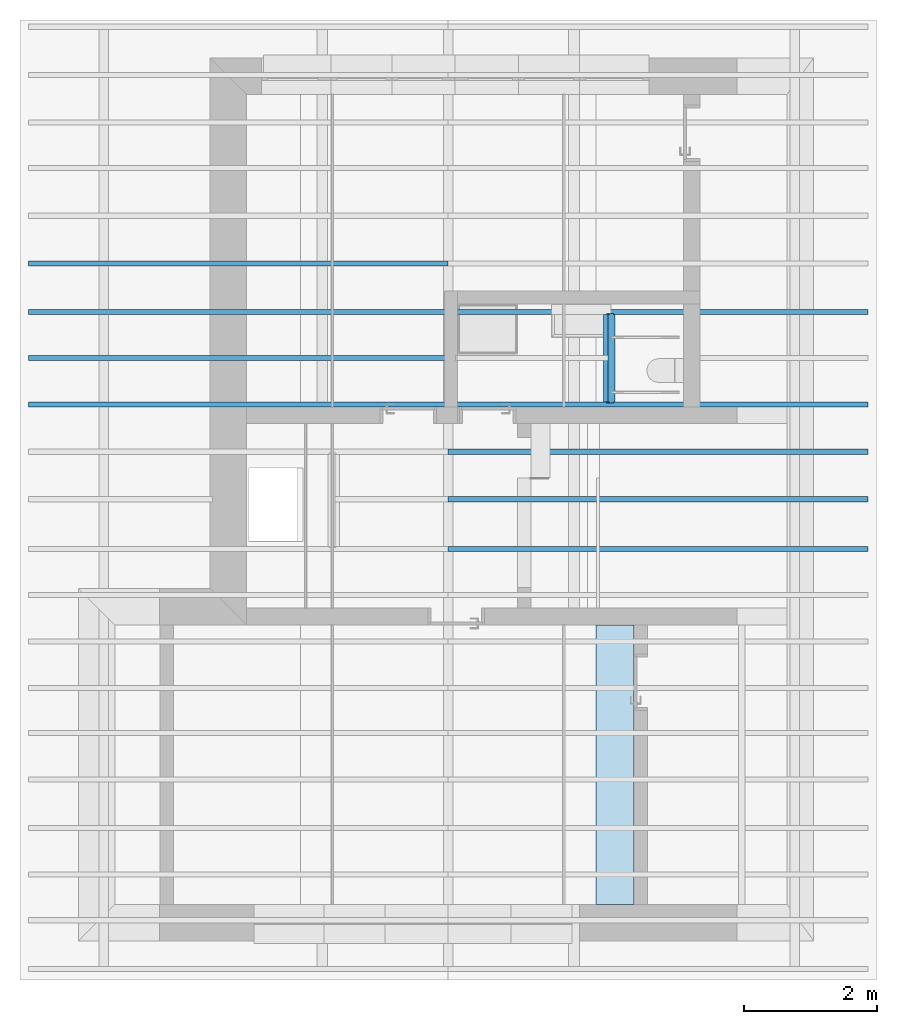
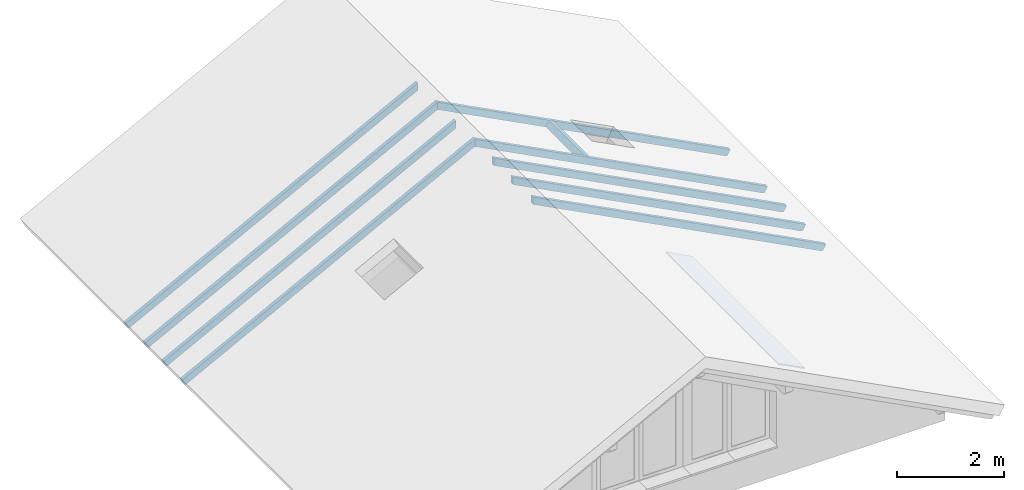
# One storey, part 11 of 18: 10 beams, 1 slab.
"""IFC2X3 building model written with IfcOpenShell, lengths in metres."""

from ifc_helpers import new_model, entity, si_unit, converted_unit, derived_unit, direction, frame, origin, place, context, subcontext, project, spatial, faceted_brep, material, layer, layer_set, type_object, element, save


model = new_model("IFC2X3")

# Units and contexts
model_context = context("Model", 3, precision=1e-05, world=origin(), true_north=direction((6.123233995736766e-17, 1.0)))
body_context = subcontext(model_context, "Body", "Model", "MODEL_VIEW")
ifc_project = project(units=[si_unit("LENGTHUNIT", "METRE"), si_unit("AREAUNIT", "SQUARE_METRE"), si_unit("VOLUMEUNIT", "CUBIC_METRE"), si_unit("POWERUNIT", "WATT"), derived_unit("USERDEFINED", [(si_unit("MASSUNIT", "GRAM", prefix="KILO"), 1), (si_unit("TIMEUNIT", "SECOND"), -3)]), derived_unit("THERMALRESISTANCEUNIT", [(si_unit("MASSUNIT", "GRAM", prefix="KILO"), -1), (si_unit("TIMEUNIT", "SECOND"), 3), (si_unit("THERMODYNAMICTEMPERATUREUNIT", "KELVIN"), 1)]), derived_unit("USERDEFINED", [(si_unit("MASSUNIT", "GRAM", prefix="KILO"), 1), (si_unit("TIMEUNIT", "SECOND"), -2), (si_unit("THERMODYNAMICTEMPERATUREUNIT", "KELVIN"), -1)]), derived_unit("THERMALTRANSMITTANCEUNIT", [(si_unit("MASSUNIT", "GRAM", prefix="KILO"), 1), (si_unit("TIMEUNIT", "SECOND"), -3), (si_unit("THERMODYNAMICTEMPERATUREUNIT", "KELVIN"), -1)]), converted_unit("PLANEANGLEUNIT", "DEGREE", entity("IfcPlaneAngleMeasure", 0.017453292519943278), si_unit("PLANEANGLEUNIT", "RADIAN"), dimensions=[0, 0, 0, 0, 0, 0, 0]), derived_unit("MOMENTOFINERTIAUNIT", [(si_unit("LENGTHUNIT", "METRE"), 4)])], contexts=[model_context])

# Site, building, storey
site_placement = place(None, origin())
site = spatial("IfcSite", under=ifc_project, at=site_placement, Name="Default", CompositionType="ELEMENT")
building_placement = place(site_placement, origin())
building = spatial("IfcBuilding", under=site, at=building_placement, CompositionType="ELEMENT")
storey_placement = place(building_placement, frame((0.0, 0.0, 5.4)))
storey = spatial("IfcBuildingStorey", under=building, at=storey_placement, Name="1. Obergeschoss", CompositionType="ELEMENT", Elevation=5.4)

# Beams
ifc_material_1 = material(Name="Holz - Astfichte")
beam_type_1 = type_object("IfcBeamType", Name="Skelettbau Holz - Sparren mit Zierkopf:80 x 150", PredefinedType="BEAM")
beam_1_placement = place(storey_placement, frame((26.80257715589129, 23.332272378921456, 0.05454015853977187), z_axis=(-0.4617486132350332, 0.0, 0.887010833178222), x_axis=(0.887010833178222, 0.0, 0.4617486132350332)))
element("IfcBeam", 1, at=beam_1_placement, inside=storey, type_object=beam_type_1, material=ifc_material_1, Name="Skelettbau Holz - Sparren mit Zierkopf:80 x 150", ObjectType="Skelettbau Holz - Sparren mit Zierkopf:80 x 150", context=body_context, shape_type="Brep", body=[
    faceted_brep([(7.180713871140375, 0.0, 0.1070253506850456), (7.180713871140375, 0.08000000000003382, 0.1070253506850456), (0.055713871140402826, 0.08000000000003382, 0.10702535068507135), (0.055713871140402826, 0.0, 0.10702535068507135), (0.09571387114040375, 0.0, -0.042974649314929), (0.09571387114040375, 0.08000000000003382, -0.042974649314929), (0.20571387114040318, 0.08000000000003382, -0.042974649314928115), (7.102628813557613, 0.08000000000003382, -0.04297464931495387), (7.102628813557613, 0.0, -0.04297464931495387), (0.20571387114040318, 0.0, -0.042974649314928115), (0.055713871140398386, 0.08000000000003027, -0.0029746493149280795), (0.08536110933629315, 0.08000000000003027, -0.041611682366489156), (0.07571387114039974, 0.08000000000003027, -0.03761566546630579), (0.06742959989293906, 0.08000000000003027, -0.031258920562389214), (0.0610728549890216, 0.08000000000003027, -0.022974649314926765), (0.05707683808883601, 0.08000000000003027, -0.013327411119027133), (0.05571387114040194, 0.0, -0.002974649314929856), (0.05707683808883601, 0.0, -0.013327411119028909), (0.0610728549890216, 0.0, -0.022974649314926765), (0.06742959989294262, 0.0, -0.03125892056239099), (0.07571387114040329, 0.0, -0.03761566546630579), (0.08536110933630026, 0.0, -0.04161168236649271)], [[[0, 1, 2, 3]], [[4, 5, 6, 7, 8, 9]], [[10, 2, 1, 7, 6, 5, 11, 12, 13, 14, 15]], [[4, 9, 8, 0, 3, 16, 17, 18, 19, 20, 21]], [[16, 10, 15, 17]], [[17, 15, 14, 18]], [[18, 14, 13, 19]], [[20, 12, 11, 21]], [[21, 11, 5, 4]], [[20, 19, 13, 12]], [[3, 2, 10, 16]], [[0, 8, 7, 1]]]),
])
beam_2_placement = place(storey_placement, frame((26.802577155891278, 24.030347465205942, 0.05454015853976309), z_axis=(-0.4617486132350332, 0.0, 0.887010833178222), x_axis=(0.887010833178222, 0.0, 0.4617486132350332)))
element("IfcBeam", 2, at=beam_2_placement, inside=storey, type_object=beam_type_1, material=ifc_material_1, Name="Skelettbau Holz - Sparren mit Zierkopf:80 x 150", ObjectType="Skelettbau Holz - Sparren mit Zierkopf:80 x 150", context=body_context, shape_type="Brep", body=[
    faceted_brep([(7.180713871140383, 0.0, 0.10702535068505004), (7.180713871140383, 0.08000000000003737, 0.10702535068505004), (0.05571387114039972, 0.08000000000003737, 0.10702535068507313), (0.05571387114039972, 0.0, 0.10702535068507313), (0.09571387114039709, 0.0, -0.042974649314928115), (0.09571387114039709, 0.08000000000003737, -0.042974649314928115), (0.20571387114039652, 0.08000000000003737, -0.04297464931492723), (7.102628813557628, 0.08000000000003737, -0.04297464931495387), (7.102628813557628, 0.0, -0.04297464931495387), (0.20571387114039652, 0.0, -0.04297464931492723), (0.05571387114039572, 0.08000000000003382, -0.002974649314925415), (0.08536110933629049, 0.08000000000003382, -0.04161168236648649), (0.07571387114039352, 0.08000000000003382, -0.037615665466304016), (0.0674295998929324, 0.08000000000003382, -0.031258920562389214), (0.061072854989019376, 0.08000000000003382, -0.022974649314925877), (0.05707683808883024, 0.08000000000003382, -0.013327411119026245), (0.05571387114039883, 0.0, -0.0029746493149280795), (0.05707683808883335, 0.0, -0.013327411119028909), (0.06107285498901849, 0.0, -0.022974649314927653), (0.06742959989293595, 0.0, -0.03125892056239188), (0.07571387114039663, 0.0, -0.03761566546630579), (0.08536110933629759, 0.0, -0.041611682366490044)], [[[0, 1, 2, 3]], [[4, 5, 6, 7, 8, 9]], [[10, 2, 1, 7, 6, 5, 11, 12, 13, 14, 15]], [[4, 9, 8, 0, 3, 16, 17, 18, 19, 20, 21]], [[16, 10, 15, 17]], [[17, 15, 14, 18]], [[18, 14, 13, 19]], [[20, 12, 11, 21]], [[21, 11, 5, 4]], [[20, 19, 13, 12]], [[3, 2, 10, 16]], [[0, 8, 7, 1]]]),
])
beam_3_placement = place(storey_placement, frame((26.80257715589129, 24.724921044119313, 0.0545401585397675), z_axis=(-0.4617486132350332, 0.0, 0.887010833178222), x_axis=(0.887010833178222, 0.0, 0.4617486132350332)))
element("IfcBeam", 3, at=beam_3_placement, inside=storey, type_object=beam_type_1, material=ifc_material_1, Name="Skelettbau Holz - Sparren mit Zierkopf:80 x 150", ObjectType="Skelettbau Holz - Sparren mit Zierkopf:80 x 150", context=body_context, shape_type="Brep", body=[
    faceted_brep([(7.180713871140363, 0.0, 0.10702535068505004), (7.180713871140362, 0.08000000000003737, 0.10702535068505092), (0.055713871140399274, 0.08000000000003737, 0.10702535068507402), (0.05571387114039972, 0.0, 0.10702535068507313), (0.09571387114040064, 0.0, -0.04297464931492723), (0.0957138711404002, 0.08000000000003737, -0.04297464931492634), (0.20571387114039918, 0.08000000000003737, -0.04297464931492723), (7.102628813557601, 0.08000000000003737, -0.04297464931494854), (7.102628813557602, 0.0, -0.04297464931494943), (0.20571387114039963, 0.0, -0.042974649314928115), (0.05571387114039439, 0.08000000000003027, -0.0029746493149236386), (0.08536110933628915, 0.08000000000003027, -0.0416116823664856), (0.07571387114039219, 0.08000000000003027, -0.03761566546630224), (0.06742959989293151, 0.08000000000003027, -0.03125892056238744), (0.061072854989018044, 0.08000000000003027, -0.02297464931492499), (0.05707683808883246, 0.08000000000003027, -0.013327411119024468), (0.05571387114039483, 0.0, -0.002974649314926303), (0.05707683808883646, 0.0, -0.013327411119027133), (0.06107285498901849, 0.0, -0.022974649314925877), (0.06742959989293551, 0.0, -0.031258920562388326), (0.07571387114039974, 0.0, -0.03761566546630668), (0.0853611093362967, 0.0, -0.04161168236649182)], [[[0, 1, 2, 3]], [[4, 5, 6, 7, 8, 9]], [[10, 2, 1, 7, 6, 5, 11, 12, 13, 14, 15]], [[4, 9, 8, 0, 3, 16, 17, 18, 19, 20, 21]], [[16, 10, 15, 17]], [[17, 15, 14, 18]], [[18, 14, 13, 19]], [[20, 12, 11, 21]], [[21, 11, 5, 4]], [[20, 19, 13, 12]], [[3, 2, 10, 16]], [[0, 8, 7, 1]]]),
])
beam_4_placement = place(storey_placement, frame((26.80257715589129, 25.454921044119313, 0.054540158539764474), z_axis=(-0.4617486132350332, 0.0, 0.887010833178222), x_axis=(0.887010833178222, 0.0, 0.4617486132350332)))
element("IfcBeam", 4, at=beam_4_placement, inside=storey, type_object=beam_type_1, material=ifc_material_1, Name="Skelettbau Holz - Sparren mit Zierkopf:80 x 150", ObjectType="Skelettbau Holz - Sparren mit Zierkopf:80 x 150", context=body_context, shape_type="Brep", body=[
    faceted_brep([(7.180713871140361, 0.0, 0.1070253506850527), (7.180713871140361, 0.08000000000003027, 0.1070253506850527), (0.055713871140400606, 0.08000000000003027, 0.10702535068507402), (0.05571387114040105, 0.0, 0.10702535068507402), (0.09571387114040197, 0.0, -0.04297464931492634), (0.09571387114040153, 0.08000000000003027, -0.04297464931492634), (0.20571387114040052, 0.08000000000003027, -0.04297464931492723), (7.102628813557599, 0.08000000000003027, -0.04297464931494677), (7.102628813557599, 0.0, -0.04297464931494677), (0.20571387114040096, 0.0, -0.04297464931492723), (0.05571387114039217, 0.08000000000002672, -0.0029746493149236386), (0.08536110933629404, 0.08000000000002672, -0.041611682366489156), (0.07571387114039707, 0.08000000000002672, -0.037615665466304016), (0.06742959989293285, 0.08000000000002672, -0.03125892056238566), (0.061072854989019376, 0.08000000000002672, -0.02297464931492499), (0.05707683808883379, 0.08000000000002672, -0.013327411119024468), (0.05571387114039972, 0.0, -0.0029746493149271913), (0.05707683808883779, 0.0, -0.013327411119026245), (0.06107285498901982, 0.0, -0.02297464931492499), (0.0674295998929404, 0.0, -0.031258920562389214), (0.07571387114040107, 0.0, -0.03761566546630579), (0.08536110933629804, 0.0, -0.04161168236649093)], [[[0, 1, 2, 3]], [[4, 5, 6, 7, 8, 9]], [[10, 2, 1, 7, 6, 5, 11, 12, 13, 14, 15]], [[4, 9, 8, 0, 3, 16, 17, 18, 19, 20, 21]], [[16, 10, 15, 17]], [[17, 15, 14, 18]], [[18, 14, 13, 19]], [[20, 12, 11, 21]], [[21, 11, 5, 4]], [[20, 19, 13, 12]], [[3, 2, 10, 16]], [[0, 8, 7, 1]]]),
])
beam_5_placement = place(storey_placement, frame((33.1225293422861, 24.724921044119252, 3.465157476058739), z_axis=(0.46174861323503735, 0.0, 0.8870108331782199), x_axis=(-0.8870108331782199, 0.0, 0.46174861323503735)))
element("IfcBeam", 5, at=beam_5_placement, inside=storey, type_object=beam_type_1, material=ifc_material_1, Name="Skelettbau Holz - Sparren mit Zierkopf:80 x 150", ObjectType="Skelettbau Holz - Sparren mit Zierkopf:80 x 150", context=body_context, shape_type="Brep", body=[
    faceted_brep([(0.0, 0.0, 0.0), (-2.7120042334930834, 0.0, 0.0), (-2.738927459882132, 0.0, 0.0), (-2.735346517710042, -0.020000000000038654, 0.0), (-2.808661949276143, -0.0200000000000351, 0.0), (-2.805081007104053, 0.0, 0.0), (-2.832004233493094, 0.0, 0.0), (-7.124999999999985, 0.0, 0.0), (-7.124999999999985, -0.08000000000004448, 0.0), (0.0, -0.08000000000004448, 0.0), (-7.084999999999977, 0.0, -0.14999999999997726), (-6.974999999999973, 0.0, -0.14999999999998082), (-2.8320042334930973, 0.0, -0.1499999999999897), (-2.712004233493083, 0.0, -0.14999999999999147), (-0.0780850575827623, 0.0, -0.14999999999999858), (-0.07808505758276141, -0.08000000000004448, -0.14999999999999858), (-6.974999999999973, -0.08000000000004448, -0.14999999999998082), (-7.084999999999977, -0.08000000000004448, -0.14999999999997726), (-7.095352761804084, 0.0, -0.1486370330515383), (-7.104999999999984, 0.0, -0.14464101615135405), (-7.113284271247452, 0.0, -0.13828427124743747), (-7.119641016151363, 0.0, -0.1299999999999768), (-7.123637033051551, 0.0, -0.12035276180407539), (-7.124999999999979, 0.0, -0.10999999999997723), (-2.781852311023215, 0.0, -0.13173648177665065), (-2.781100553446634, 0.0, -0.1341541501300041), (-2.77976569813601, 0.0, -0.13630552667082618), (-2.7779333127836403, 0.0, -0.1380527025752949), (-2.7757208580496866, 0.0, -0.1392836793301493), (-2.773270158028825, 0.0, -0.13991954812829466), (-2.7707383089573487, 0.0, -0.1399195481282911), (-2.7682876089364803, 0.0, -0.13928367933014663), (-2.766075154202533, 0.0, -0.13805270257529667), (-2.7642427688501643, 0.0, -0.13630552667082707), (-2.7629079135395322, 0.0, -0.13415415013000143), (-2.7621561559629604, 0.0, -0.13173648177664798), (-7.124999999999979, -0.08000000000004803, -0.10999999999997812), (-7.123637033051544, -0.08000000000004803, -0.12035276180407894), (-7.119641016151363, -0.08000000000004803, -0.1299999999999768), (-7.113284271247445, -0.08000000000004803, -0.13828427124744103), (-7.104999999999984, -0.08000000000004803, -0.14464101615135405), (-7.095352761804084, -0.08000000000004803, -0.1486370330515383), (-2.785325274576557, -0.0200000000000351, -0.13234885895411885), (-2.7586831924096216, -0.0200000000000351, -0.1323488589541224), (-2.759700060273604, -0.0200000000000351, -0.1356191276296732), (-2.761505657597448, -0.0200000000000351, -0.13852919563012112), (-2.763984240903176, -0.0200000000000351, -0.14089252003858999), (-2.7669769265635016, -0.0200000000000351, -0.14255760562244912), (-2.7702918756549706, -0.0200000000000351, -0.14341771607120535), (-2.7737165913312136, -0.0200000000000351, -0.14341771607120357), (-2.7770315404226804, -0.0200000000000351, -0.1425576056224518), (-2.780024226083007, -0.0200000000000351, -0.1408925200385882), (-2.7825028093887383, -0.0200000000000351, -0.13852919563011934), (-2.7843084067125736, -0.0200000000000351, -0.1356191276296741)], [[[0, 1, 2, 3, 4, 5, 6, 7, 8, 9]], [[10, 11, 12, 13, 14, 15, 16, 17]], [[1, 0, 14, 13, 12, 11, 10, 18, 19, 20, 21, 22, 23, 7, 6, 5, 24, 25, 26, 27, 28, 29, 30, 31, 32, 33, 34, 35, 2]], [[17, 16, 15, 9, 8, 36, 37, 38, 39, 40, 41]], [[36, 23, 22, 37]], [[37, 22, 21, 38]], [[38, 21, 20, 39]], [[40, 19, 18, 41]], [[41, 18, 10, 17]], [[40, 39, 20, 19]], [[8, 7, 23, 36]], [[9, 15, 14, 0]], [[42, 4, 3, 43, 44, 45, 46, 47, 48, 49, 50, 51, 52, 53]], [[25, 24, 42, 53]], [[26, 25, 53, 52]], [[50, 49, 29, 28]], [[51, 50, 28, 27]], [[52, 51, 27, 26]], [[49, 48, 30, 29]], [[47, 46, 32, 31]], [[48, 47, 31, 30]], [[44, 43, 35, 34]], [[45, 44, 34, 33]], [[46, 45, 33, 32]], [[42, 24, 5, 4]], [[3, 2, 35, 43]]]),
])
beam_6_placement = place(storey_placement, frame((33.1225293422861, 23.332272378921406, 3.4651574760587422), z_axis=(0.46174861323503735, 0.0, 0.8870108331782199), x_axis=(-0.8870108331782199, 0.0, 0.46174861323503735)))
element("IfcBeam", 6, at=beam_6_placement, inside=storey, type_object=beam_type_1, material=ifc_material_1, Name="Skelettbau Holz - Sparren mit Zierkopf:80 x 150", ObjectType="Skelettbau Holz - Sparren mit Zierkopf:80 x 150", context=body_context, shape_type="Brep", body=[
    faceted_brep([(0.0, 0.0, 0.0), (-7.124999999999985, 0.0, 0.0), (-7.124999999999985, -0.08000000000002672, 0.0), (-2.8320042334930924, -0.08000000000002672, 0.0), (-2.805081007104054, -0.08000000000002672, 0.0), (-2.808661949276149, -0.06000000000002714, 0.0), (-2.735346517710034, -0.060000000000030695, 0.0), (-2.738927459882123, -0.08000000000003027, 0.0), (-2.7120042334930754, -0.08000000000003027, 0.0), (0.0, -0.08000000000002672, 0.0), (-7.084999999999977, 0.0, -0.14999999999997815), (-6.974999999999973, 0.0, -0.1499999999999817), (-0.0780850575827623, 0.0, -0.14999999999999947), (-0.0780850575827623, -0.08000000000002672, -0.15000000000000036), (-2.712004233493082, -0.08000000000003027, -0.14999999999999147), (-2.832004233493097, -0.08000000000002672, -0.1499999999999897), (-6.974999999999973, -0.08000000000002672, -0.1499999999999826), (-7.084999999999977, -0.08000000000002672, -0.14999999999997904), (-7.124999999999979, 0.0, -0.10999999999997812), (-7.095352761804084, 0.0, -0.1486370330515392), (-7.104999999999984, 0.0, -0.14464101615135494), (-7.113284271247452, 0.0, -0.13828427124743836), (-7.119641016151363, 0.0, -0.1299999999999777), (-7.123637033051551, 0.0, -0.12035276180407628), (-2.7621561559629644, -0.08000000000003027, -0.13173648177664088), (-2.762907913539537, -0.08000000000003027, -0.1341541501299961), (-2.764242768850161, -0.08000000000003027, -0.13630552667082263), (-2.7660751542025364, -0.08000000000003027, -0.1380527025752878), (-2.76828760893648, -0.08000000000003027, -0.13928367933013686), (-2.7707383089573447, -0.08000000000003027, -0.13991954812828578), (-2.7732701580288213, -0.08000000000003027, -0.13991954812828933), (-2.7757208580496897, -0.08000000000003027, -0.13928367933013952), (-2.777933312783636, -0.08000000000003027, -0.13805270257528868), (-2.779765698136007, -0.08000000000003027, -0.13630552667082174), (-2.7811005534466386, -0.08000000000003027, -0.1341541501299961), (-2.7818523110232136, -0.08000000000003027, -0.13173648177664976), (-7.124999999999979, -0.08000000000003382, -0.10999999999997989), (-7.123637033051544, -0.08000000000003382, -0.12035276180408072), (-7.119641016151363, -0.08000000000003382, -0.12999999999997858), (-7.113284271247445, -0.08000000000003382, -0.1382842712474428), (-7.104999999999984, -0.08000000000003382, -0.14464101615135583), (-7.095352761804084, -0.08000000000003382, -0.14863703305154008), (-2.7586831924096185, -0.06000000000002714, -0.13234885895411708), (-2.785325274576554, -0.06000000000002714, -0.1323488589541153), (-2.784308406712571, -0.06000000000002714, -0.13561912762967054), (-2.782502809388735, -0.06000000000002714, -0.1385291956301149), (-2.7800242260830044, -0.06000000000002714, -0.14089252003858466), (-2.777031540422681, -0.06000000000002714, -0.14255760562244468), (-2.7737165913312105, -0.06000000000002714, -0.14341771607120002), (-2.770291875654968, -0.06000000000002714, -0.1434177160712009), (-2.7669769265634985, -0.06000000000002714, -0.14255760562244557), (-2.7639842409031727, -0.06000000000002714, -0.14089252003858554), (-2.7615056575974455, -0.06000000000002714, -0.13852919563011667), (-2.759700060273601, -0.06000000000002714, -0.13561912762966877)], [[[0, 1, 2, 3, 4, 5, 6, 7, 8, 9]], [[10, 11, 12, 13, 14, 15, 16, 17]], [[18, 1, 0, 12, 11, 10, 19, 20, 21, 22, 23]], [[16, 15, 14, 13, 9, 8, 7, 24, 25, 26, 27, 28, 29, 30, 31, 32, 33, 34, 35, 4, 3, 2, 36, 37, 38, 39, 40, 41, 17]], [[36, 18, 23, 37]], [[37, 23, 22, 38]], [[38, 22, 21, 39]], [[40, 20, 19, 41]], [[41, 19, 10, 17]], [[40, 39, 21, 20]], [[2, 1, 18, 36]], [[9, 13, 12, 0]], [[42, 6, 5, 43, 44, 45, 46, 47, 48, 49, 50, 51, 52, 53]], [[25, 24, 42, 53]], [[26, 25, 53, 52]], [[50, 49, 29, 28]], [[51, 50, 28, 27]], [[52, 51, 27, 26]], [[49, 48, 30, 29]], [[47, 46, 32, 31]], [[48, 47, 31, 30]], [[44, 43, 35, 34]], [[45, 44, 34, 33]], [[46, 45, 33, 32]], [[42, 24, 7, 6]], [[5, 4, 35, 43]]]),
])
beam_7_placement = place(storey_placement, frame((33.12252934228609, 22.61705263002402, 3.4651574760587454), z_axis=(0.46174861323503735, 0.0, 0.8870108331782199), x_axis=(-0.8870108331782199, 0.0, 0.46174861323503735)))
element("IfcBeam", 7, at=beam_7_placement, inside=storey, type_object=beam_type_1, material=ifc_material_1, Name="Skelettbau Holz - Sparren mit Zierkopf:80 x 150", ObjectType="Skelettbau Holz - Sparren mit Zierkopf:80 x 150", context=body_context, shape_type="Brep", body=[
    faceted_brep([(0.0, -0.08000000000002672, 0.0), (0.0, 0.0, 0.0), (-7.12499999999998, 0.0, 0.0), (-7.12499999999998, -0.08000000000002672, 0.0), (-7.0849999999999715, -0.08000000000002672, -0.14999999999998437), (-7.0849999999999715, 0.0, -0.14999999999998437), (-6.974999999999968, 0.0, -0.14999999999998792), (-0.07808505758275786, 0.0, -0.15000000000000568), (-0.07808505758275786, -0.08000000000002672, -0.15000000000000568), (-6.974999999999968, -0.08000000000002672, -0.14999999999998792), (-7.124999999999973, 0.0, -0.10999999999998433), (-7.095352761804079, 0.0, -0.1486370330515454), (-7.104999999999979, 0.0, -0.14464101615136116), (-7.113284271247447, 0.0, -0.13828427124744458), (-7.119641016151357, 0.0, -0.1299999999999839), (-7.123637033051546, 0.0, -0.1203527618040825), (-7.124999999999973, -0.08000000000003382, -0.10999999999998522), (-7.123637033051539, -0.08000000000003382, -0.12035276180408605), (-7.119641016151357, -0.08000000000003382, -0.1299999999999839), (-7.11328427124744, -0.08000000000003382, -0.13828427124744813), (-7.104999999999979, -0.08000000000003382, -0.14464101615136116), (-7.095352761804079, -0.08000000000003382, -0.1486370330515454)], [[[0, 1, 2, 3]], [[4, 5, 6, 7, 8, 9]], [[10, 2, 1, 7, 6, 5, 11, 12, 13, 14, 15]], [[4, 9, 8, 0, 3, 16, 17, 18, 19, 20, 21]], [[16, 10, 15, 17]], [[17, 15, 14, 18]], [[18, 14, 13, 19]], [[20, 12, 11, 21]], [[21, 11, 5, 4]], [[20, 19, 13, 12]], [[3, 2, 10, 16]], [[0, 8, 7, 1]]]),
])
beam_8_placement = place(storey_placement, frame((33.1225293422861, 21.902052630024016, 3.4651574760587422), z_axis=(0.46174861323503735, 0.0, 0.8870108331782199), x_axis=(-0.8870108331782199, 0.0, 0.46174861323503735)))
element("IfcBeam", 8, at=beam_8_placement, inside=storey, type_object=beam_type_1, material=ifc_material_1, Name="Skelettbau Holz - Sparren mit Zierkopf:80 x 150", ObjectType="Skelettbau Holz - Sparren mit Zierkopf:80 x 150", context=body_context, shape_type="Brep", body=[
    faceted_brep([(0.0, -0.08000000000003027, 0.0), (0.0, 0.0, 0.0), (-7.12499999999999, 0.0, 0.0), (-7.12499999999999, -0.08000000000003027, 0.0), (-7.084999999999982, -0.08000000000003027, -0.14999999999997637), (-7.084999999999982, 0.0, -0.14999999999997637), (-6.974999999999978, 0.0, -0.14999999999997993), (-0.07808505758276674, 0.0, -0.1499999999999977), (-0.07808505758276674, -0.08000000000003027, -0.1499999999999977), (-6.974999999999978, -0.08000000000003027, -0.14999999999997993), (-7.124999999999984, 0.0, -0.10999999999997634), (-7.095352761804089, 0.0, -0.14863703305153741), (-7.10499999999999, 0.0, -0.14464101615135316), (-7.1132842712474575, 0.0, -0.13828427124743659), (-7.119641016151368, 0.0, -0.1299999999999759), (-7.123637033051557, 0.0, -0.1203527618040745), (-7.124999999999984, -0.08000000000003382, -0.10999999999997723), (-7.1236370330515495, -0.08000000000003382, -0.12035276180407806), (-7.119641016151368, -0.08000000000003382, -0.1299999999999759), (-7.11328427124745, -0.08000000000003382, -0.13828427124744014), (-7.10499999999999, -0.08000000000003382, -0.14464101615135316), (-7.095352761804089, -0.08000000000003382, -0.14863703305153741)], [[[0, 1, 2, 3]], [[4, 5, 6, 7, 8, 9]], [[10, 2, 1, 7, 6, 5, 11, 12, 13, 14, 15]], [[4, 9, 8, 0, 3, 16, 17, 18, 19, 20, 21]], [[16, 10, 15, 17]], [[17, 15, 14, 18]], [[18, 14, 13, 19]], [[20, 12, 11, 21]], [[21, 11, 5, 4]], [[20, 19, 13, 12]], [[3, 2, 10, 16]], [[0, 8, 7, 1]]]),
])
beam_9_placement = place(storey_placement, frame((33.1225293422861, 21.154552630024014, 3.4651574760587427), z_axis=(0.46174861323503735, 0.0, 0.8870108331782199), x_axis=(-0.8870108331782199, 0.0, 0.46174861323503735)))
element("IfcBeam", 9, at=beam_9_placement, inside=storey, type_object=beam_type_1, material=ifc_material_1, Name="Skelettbau Holz - Sparren mit Zierkopf:80 x 150", ObjectType="Skelettbau Holz - Sparren mit Zierkopf:80 x 150", context=body_context, shape_type="Brep", body=[
    faceted_brep([(0.0, -0.08000000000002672, 0.0), (0.0, 0.0, 0.0), (-7.124999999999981, 0.0, 0.0), (-7.124999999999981, -0.08000000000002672, 0.0), (-7.084999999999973, -0.08000000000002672, -0.1499999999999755), (-7.084999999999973, 0.0, -0.1499999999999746), (-6.9749999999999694, 0.0, -0.14999999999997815), (-0.07808505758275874, 0.0, -0.14999999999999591), (-0.07808505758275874, -0.08000000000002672, -0.1499999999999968), (-6.9749999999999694, -0.08000000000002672, -0.14999999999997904), (-7.124999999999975, 0.0, -0.10999999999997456), (-7.09535276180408, 0.0, -0.14863703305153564), (-7.104999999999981, 0.0, -0.1446410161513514), (-7.113284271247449, 0.0, -0.1382842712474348), (-7.119641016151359, 0.0, -0.12999999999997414), (-7.123637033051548, 0.0, -0.12035276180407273), (-7.124999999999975, -0.08000000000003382, -0.10999999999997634), (-7.123637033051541, -0.08000000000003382, -0.12035276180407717), (-7.119641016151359, -0.08000000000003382, -0.12999999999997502), (-7.113284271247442, -0.08000000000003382, -0.13828427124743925), (-7.104999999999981, -0.08000000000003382, -0.14464101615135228), (-7.09535276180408, -0.08000000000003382, -0.14863703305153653)], [[[0, 1, 2, 3]], [[4, 5, 6, 7, 8, 9]], [[10, 2, 1, 7, 6, 5, 11, 12, 13, 14, 15]], [[4, 9, 8, 0, 3, 16, 17, 18, 19, 20, 21]], [[16, 10, 15, 17]], [[17, 15, 14, 18]], [[18, 14, 13, 19]], [[20, 12, 11, 21]], [[21, 11, 5, 4]], [[20, 19, 13, 12]], [[3, 2, 10, 16]], [[0, 8, 7, 1]]]),
])
beam_type_2 = type_object("IfcBeamType", Name="Skelettbau Holz - Riegel mit Schwalbenschwanz:120 x 150", PredefinedType="BEAM")
beam_10_placement = place(storey_placement, frame((35.458844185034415, 23.392272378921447, 2.212893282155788), z_axis=(0.0, 0.0, 1.0), x_axis=(0.0, 1.0, 0.0)))
element("IfcBeam", 10, at=beam_10_placement, inside=storey, type_object=beam_type_2, material=ifc_material_1, Name="Skelettbau Holz - Riegel mit Schwalbenschwanz:120 x 150", ObjectType="Skelettbau Holz - Riegel mit Schwalbenschwanz:120 x 150", context=body_context, shape_type="Brep", body=[
    faceted_brep([(1.3326486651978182, -0.09314348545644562, -0.01243176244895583), (1.3326486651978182, -0.06926229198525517, 0.0), (0.02000000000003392, -0.06926229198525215, 0.0), (0.02000000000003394, -0.0931434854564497, -0.01243176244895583), (0.0, -0.0899671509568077, -0.010778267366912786), (0.0, -0.1549987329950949, -0.04463156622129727), (0.020000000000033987, -0.15182239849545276, -0.042978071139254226), (0.020000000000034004, -0.1757035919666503, -0.05540983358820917), (1.3326486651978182, -0.17570359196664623, -0.05540983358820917), (1.3326486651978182, -0.15182239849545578, -0.04297807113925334), (1.3526486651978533, -0.15499873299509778, -0.04463156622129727), (1.3526486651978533, -0.0899671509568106, -0.010778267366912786), (0.020000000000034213, -0.10644129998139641, -0.1884614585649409), (0.020000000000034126, 0.0, -0.13305162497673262), (1.3326486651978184, 0.0, -0.13305162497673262), (1.3326486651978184, -0.10644129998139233, -0.1884614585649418), (0.0, -0.07318694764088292, -0.15125076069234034), (0.0, -0.04955513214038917, -0.13894881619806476), (0.0, -0.04894706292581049, -0.14231911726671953), (0.0, -0.049204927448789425, -0.14573411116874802), (0.0, -0.05031219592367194, -0.148974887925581), (0.0, -0.052197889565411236, -0.15183370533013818), (0.0, -0.054741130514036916, -0.15412730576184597), (0.0, -0.05777889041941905, -0.1557086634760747), (0.0, -0.061116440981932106, -0.15647640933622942), (0.0, -0.06453983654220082, -0.1563813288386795), (0.0, -0.06782962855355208, -0.15542951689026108), (0.0, -0.07077493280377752, -0.15368198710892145), (1.3526486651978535, -0.04955513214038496, -0.1389488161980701), (1.3526486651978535, -0.07318694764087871, -0.15125076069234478), (1.3526486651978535, -0.07077493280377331, -0.1536819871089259), (1.3526486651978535, -0.06782962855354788, -0.1554295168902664), (1.3526486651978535, -0.06453983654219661, -0.15638132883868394), (1.3526486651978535, -0.061116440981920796, -0.15647640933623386), (1.3526486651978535, -0.05777889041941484, -0.15570866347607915), (1.3526486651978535, -0.05474113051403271, -0.1541273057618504), (1.3526486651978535, -0.05219788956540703, -0.15183370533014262), (1.3526486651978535, -0.05031219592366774, -0.14897488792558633), (1.3526486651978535, -0.04920492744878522, -0.14573411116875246), (1.3526486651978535, -0.048947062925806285, -0.14231911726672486), (1.3326486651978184, -0.05291845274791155, -0.14000926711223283), (1.3326486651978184, -0.05434838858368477, -0.14887061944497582), (1.3326486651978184, -0.06231018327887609, -0.1530152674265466), (1.3326486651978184, -0.07038915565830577, -0.14910393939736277), (0.02000000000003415, -0.07038915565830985, -0.14910393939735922), (0.020000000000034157, -0.062310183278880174, -0.15301526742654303), (0.02000000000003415, -0.054348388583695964, -0.1488706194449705), (0.020000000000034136, -0.05291845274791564, -0.14000926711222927)], [[[0, 1, 2, 3, 4, 5, 6, 7, 8, 9, 10, 11]], [[12, 13, 14, 15]], [[2, 1, 14, 13]], [[16, 5, 4, 17, 18, 19, 20, 21, 22, 23, 24, 25, 26, 27]], [[8, 7, 12, 15]], [[28, 11, 10, 29, 30, 31, 32, 33, 34, 35, 36, 37, 38, 39]], [[40, 41, 42, 43, 9, 8, 15, 14, 1, 0]], [[29, 43, 30]], [[31, 43, 42]], [[43, 31, 30]], [[32, 31, 42]], [[34, 33, 42]], [[32, 42, 33]], [[42, 41, 35, 34]], [[36, 35, 41]], [[36, 41, 37]], [[38, 41, 40]], [[37, 41, 38]], [[39, 38, 40]], [[28, 39, 40]], [[9, 43, 29, 10]], [[28, 40, 0, 11]], [[44, 45, 46, 47, 3, 2, 13, 12, 7, 6]], [[17, 47, 18]], [[19, 47, 46]], [[47, 19, 18]], [[20, 19, 46]], [[22, 21, 46]], [[20, 46, 21]], [[46, 45, 23, 22]], [[24, 23, 45]], [[24, 45, 25]], [[26, 45, 44]], [[25, 45, 26]], [[27, 26, 44]], [[16, 27, 44]], [[3, 47, 17, 4]], [[16, 44, 6, 5]]]),
])

# Slab
ifc_material_2 = material(Name="Trockenbau - Gipsplatte")
ifc_layer = layer(ifc_material_2, 0.03)
ifc_layer_set = layer_set([ifc_layer], Name="Geschossdecke:1OG Decke 30")
slab_type = type_object("IfcSlabType", Name="Geschossdecke:1OG Decke 30", PredefinedType="FLOOR", material=ifc_layer_set)
slab_placement = place(storey_placement, origin())
element("IfcSlab", 11, at=slab_placement, inside=storey, type_object=slab_type, material=ifc_material_2, Name="Geschossdecke:1OG Decke 30", ObjectType="Geschossdecke:1OG Decke 30", PredefinedType="FLOOR", context=body_context, shape_type="Brep", body=[
    faceted_brep([(35.35106297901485, 20.052272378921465, 2.0789604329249), (35.35106297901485, 20.052272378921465, 2.0784687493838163), (35.35106297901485, 18.40355706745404, 2.0784687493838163), (35.351062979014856, 17.12291472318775, 2.0784687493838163), (35.35106297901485, 15.842272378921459, 2.0784687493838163), (35.35106297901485, 15.842272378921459, 2.0789604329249), (35.35106297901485, 15.842272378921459, 2.1084687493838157), (35.35106297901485, 17.12291472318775, 2.108468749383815), (35.35106297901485, 18.40355706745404, 2.108468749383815), (35.35106297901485, 20.052272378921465, 2.1084687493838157), (35.923754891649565, 15.842272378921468, 1.8152695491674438), (35.63740893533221, 15.842272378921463, 1.9618691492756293), (35.63740893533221, 15.842272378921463, 1.93186914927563), (35.923754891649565, 15.842272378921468, 1.7852695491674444), (35.923754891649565, 20.05227237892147, 1.8053067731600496), (35.923754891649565, 18.771630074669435, 1.8083373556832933), (35.923754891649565, 17.490987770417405, 1.811367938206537), (35.923754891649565, 17.49098777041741, 1.7813679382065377), (35.923754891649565, 18.771630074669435, 1.778337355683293), (35.923754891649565, 20.052272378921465, 1.7753067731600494), (35.71823207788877, 20.05227237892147, 1.8841029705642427), (35.55658579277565, 20.05227237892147, 1.969672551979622), (35.55658579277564, 20.052272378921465, 1.9996725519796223), (35.71823207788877, 20.052272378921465, 1.914102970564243), (35.611266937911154, 17.964901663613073, 1.9729707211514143), (35.75043901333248, 17.003530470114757, 1.902085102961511), (35.76975189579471, 18.312403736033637, 1.8898404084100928), (35.611266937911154, 17.964901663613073, 1.942970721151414), (35.75043901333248, 17.003530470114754, 1.8720851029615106), (35.76975189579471, 18.312403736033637, 1.8598404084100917)], [[[0, 1, 2, 3, 4, 5, 6, 7, 8, 9]], [[10, 11, 6, 5, 4, 12, 13]], [[14, 15, 16, 10, 13, 17, 18, 19]], [[14, 19, 20, 21, 1, 0, 9, 22, 23]], [[22, 24, 23]], [[22, 9, 8]], [[24, 22, 8]], [[11, 25, 24]], [[6, 11, 7]], [[24, 7, 11]], [[10, 16, 25]], [[15, 26, 16]], [[24, 8, 7]], [[10, 25, 11]], [[24, 26, 23]], [[26, 24, 25]], [[15, 14, 23]], [[16, 26, 25]], [[23, 26, 15]], [[20, 27, 21]], [[2, 1, 21]], [[2, 21, 27]], [[27, 28, 12]], [[3, 12, 4]], [[12, 3, 27]], [[28, 17, 13]], [[17, 29, 18]], [[3, 2, 27]], [[12, 28, 13]], [[20, 29, 27]], [[28, 27, 29]], [[20, 19, 18]], [[28, 29, 17]], [[18, 29, 20]]]),
])

save(model, "model.ifc")
